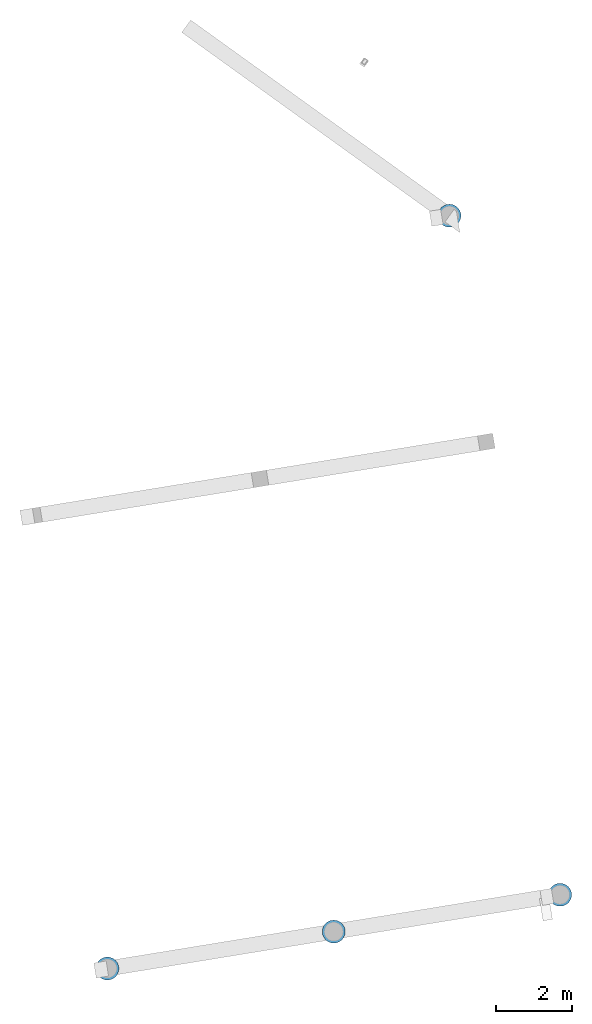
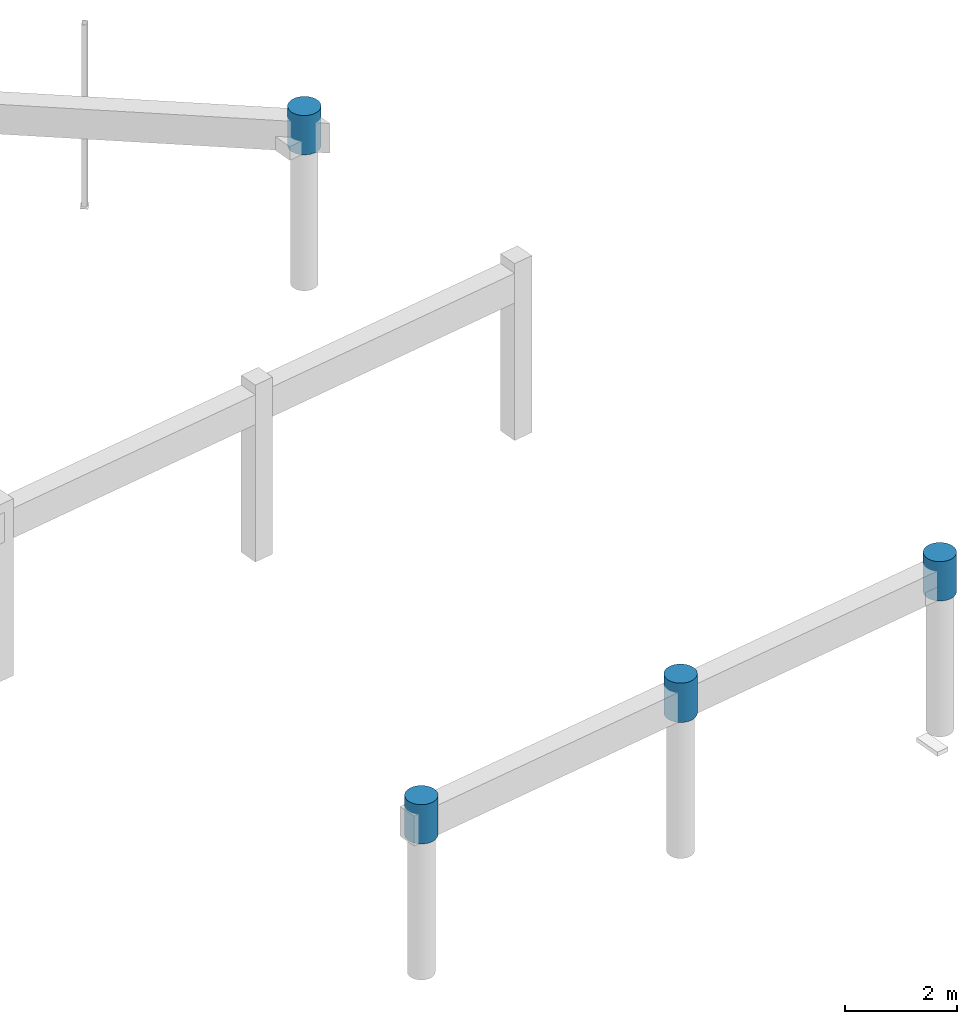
# One storey, part 4 of 4: 4 columns.
"""IFC2X3 building model written with IfcOpenShell, lengths in millimetres."""

from ifc_helpers import new_model, entity, si_unit, converted_unit, derived_unit, direction, frame, origin, origin_with_axes, place, context, subcontext, project, spatial, faceted_brep, type_object, element, save


model = new_model("IFC2X3")

# Units and contexts
model_context = context("Model", 3, precision=0.01, world=origin(), true_north=direction((6.12323399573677e-17, 1.0)))
plan_context = context("Plan", 3, precision=1e-05, world=origin_with_axes())
body_context = subcontext(model_context, "Body", "Model", "MODEL_VIEW")
ifc_project = project(units=[converted_unit("PLANEANGLEUNIT", "DEGREE", entity("IfcPositiveLengthMeasure", 0.0174532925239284), si_unit("PLANEANGLEUNIT", "RADIAN"), dimensions=[0, 0, 0, 0, 0, 0, 0]), si_unit("AREAUNIT", "SQUARE_METRE"), si_unit("LENGTHUNIT", "METRE", prefix="MILLI"), si_unit("MASSUNIT", "GRAM", prefix="KILO"), si_unit("POWERUNIT", "WATT"), si_unit("PRESSUREUNIT", "PASCAL", prefix="KILO"), si_unit("FORCEUNIT", "NEWTON", prefix="KILO"), si_unit("ELECTRICVOLTAGEUNIT", "VOLT"), si_unit("ELECTRICCURRENTUNIT", "AMPERE"), si_unit("THERMODYNAMICTEMPERATUREUNIT", "DEGREE_CELSIUS"), si_unit("TIMEUNIT", "SECOND"), si_unit("VOLUMEUNIT", "CUBIC_METRE"), derived_unit("LINEARVELOCITYUNIT", [(si_unit("LENGTHUNIT", "METRE"), 1), (si_unit("TIMEUNIT", "SECOND"), -1)]), derived_unit("VOLUMETRICFLOWRATEUNIT", [(si_unit("VOLUMEUNIT", "CUBIC_METRE"), 1), (si_unit("TIMEUNIT", "SECOND"), -1)]), derived_unit("THERMALTRANSMITTANCEUNIT", [(si_unit("POWERUNIT", "WATT"), 1), (si_unit("THERMODYNAMICTEMPERATUREUNIT", "KELVIN"), -1), (si_unit("AREAUNIT", "SQUARE_METRE"), -1)]), derived_unit("SOUNDPRESSUREUNIT", [(si_unit("PRESSUREUNIT", "PASCAL"), 1)])], contexts=[model_context, plan_context])

# Site, building, storey
site_placement = place(None, frame((5.09380697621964e-08, 5.80416781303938e-08, 0.0), z_axis=(0.0, 0.0, 1.0), x_axis=(-0.160806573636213, 0.986985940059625, 0.0)))
site = spatial("IfcSite", under=ifc_project, at=site_placement, Name="Default", CompositionType="ELEMENT")
building_placement = place(site_placement, frame((0.0, 0.0, 0.0), z_axis=(0.0, 0.0, 1.0), x_axis=(1.0, -2.77555756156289e-17, 0.0)))
building = spatial("IfcBuilding", under=site, at=building_placement, CompositionType="ELEMENT")
storey_placement = place(building_placement, frame((0.0, 0.0, 55500.0), z_axis=(0.0, 0.0, 1.0), x_axis=(1.0, -2.77555756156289e-17, 0.0)))
storey = spatial("IfcBuildingStorey", under=building, at=storey_placement, Name="H02-Nivå F-3,5 m", CompositionType="ELEMENT", Elevation=55500.0)

# Columns
column_type = type_object("IfcColumnType", Name="D600", PredefinedType="NOTDEFINED")
column_1_placement = place(storey_placement, frame((0.0, 0.0, 0.0), z_axis=(0.0, 0.0, 1.0), x_axis=(1.0, -2.77555756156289e-17, 0.0)))
element("IfcColumn", 1, at=column_1_placement, inside=storey, type_object=column_type, Name="PLASSTØPTSØYLE", ObjectType="D600", context=body_context, shape_type="Brep", body=[
    faceted_brep([(1010342.27625287, -396333.320060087, 3800.0), (1010338.58299664, -396380.250418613, 3800.0), (1010338.58299664, -396380.250418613, 2940.0), (1010342.27625287, -396333.320060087, 2940.0), (1010342.27673606, -396427.180739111, 3800.0), (1010342.27673606, -396427.180739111, 2940.0), (1010353.26651901, -396472.955441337, 3800.0), (1010353.26651901, -396472.955441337, 2940.0), (1010371.28174054, -396516.447400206, 3800.0), (1010371.28174054, -396516.447400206, 2940.0), (1010395.87880612, -396556.585699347, 3800.0), (1010395.87880612, -396556.585699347, 2940.0), (1010426.45205435, -396592.382000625, 3800.0), (1010426.45205435, -396592.382000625, 2940.0), (1010462.24867041, -396622.954880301, 3800.0), (1010462.24867041, -396622.954880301, 2940.0), (1010502.38722281, -396647.551532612, 3800.0), (1010502.38722281, -396647.551532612, 2940.0), (1010545.87936716, -396665.566306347, 3800.0), (1010545.87936716, -396665.566306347, 2940.0), (1010591.65418254, -396676.555617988, 3800.0), (1010591.65418254, -396676.555617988, 2940.0), (1010638.58454106, -396680.248874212, 3800.0), (1010638.58454106, -396680.248874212, 2940.0), (1010685.51486156, -396676.555134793, 3800.0), (1010685.51486156, -396676.555134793, 2940.0), (1010731.28956379, -396665.565351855, 3800.0), (1010731.28956379, -396665.565351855, 2940.0), (1010774.78152266, -396647.550130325, 3800.0), (1010774.78152266, -396647.550130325, 2940.0), (1010814.9198218, -396622.953064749, 3800.0), (1010814.9198218, -396622.953064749, 2940.0), (1010850.71612308, -396592.379816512, 3800.0), (1010850.71612308, -396592.379816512, 2940.0), (1010881.28900275, -396556.583200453, 3800.0), (1010881.28900275, -396556.583200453, 2940.0), (1010905.88565506, -396516.444648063, 3800.0), (1010905.88565506, -396516.444648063, 2940.0), (1010923.9004288, -396472.952503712, 3800.0), (1010923.9004288, -396472.952503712, 2940.0), (1010934.88974044, -396427.177688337, 3800.0), (1010934.88974044, -396427.177688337, 2940.0), (1010938.58299666, -396380.247329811, 3800.0), (1010938.58299666, -396380.247329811, 2940.0), (1010934.88925724, -396333.317009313, 3800.0), (1010934.88925724, -396333.317009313, 2940.0), (1010923.8994743, -396287.542307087, 3800.0), (1010923.8994743, -396287.542307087, 2940.0), (1010905.88425277, -396244.050348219, 3800.0), (1010905.88425277, -396244.050348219, 2940.0), (1010881.28718719, -396203.912049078, 3800.0), (1010881.28718719, -396203.912049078, 2940.0), (1010850.71393895, -396168.1157478, 3800.0), (1010850.71393895, -396168.1157478, 2940.0), (1010814.91732289, -396137.542868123, 3800.0), (1010814.91732289, -396137.542868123, 2940.0), (1010774.7787705, -396112.946215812, 3800.0), (1010774.7787705, -396112.946215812, 2940.0), (1010731.28662614, -396094.931442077, 3800.0), (1010731.28662614, -396094.931442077, 2940.0), (1010685.51181077, -396083.942130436, 3800.0), (1010685.51181077, -396083.942130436, 2940.0), (1010638.58145224, -396080.248874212, 3800.0), (1010638.58145224, -396080.248874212, 2940.0), (1010591.65113174, -396083.942613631, 3800.0), (1010591.65113174, -396083.942613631, 2940.0), (1010545.87642951, -396094.93239657, 3800.0), (1010545.87642951, -396094.93239657, 2940.0), (1010502.38447065, -396112.947618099, 3800.0), (1010502.38447065, -396112.947618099, 2940.0), (1010462.2461715, -396137.544683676, 3800.0), (1010462.2461715, -396137.544683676, 2940.0), (1010426.44987023, -396168.117931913, 3800.0), (1010426.44987023, -396168.117931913, 2940.0), (1010395.87699055, -396203.914547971, 3800.0), (1010395.87699055, -396203.914547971, 2940.0), (1010371.28033824, -396244.053100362, 3800.0), (1010371.28033824, -396244.053100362, 2940.0), (1010353.26556451, -396287.545244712, 3800.0), (1010353.26556451, -396287.545244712, 2940.0)], [[[0, 1, 2, 3]], [[1, 4, 5, 2]], [[4, 6, 7, 5]], [[6, 8, 9, 7]], [[8, 10, 11, 9]], [[10, 12, 13, 11]], [[12, 14, 15, 13]], [[14, 16, 17, 15]], [[16, 18, 19, 17]], [[18, 20, 21, 19]], [[20, 22, 23, 21]], [[22, 24, 25, 23]], [[24, 26, 27, 25]], [[26, 28, 29, 27]], [[28, 30, 31, 29]], [[30, 32, 33, 31]], [[32, 34, 35, 33]], [[34, 36, 37, 35]], [[36, 38, 39, 37]], [[38, 40, 41, 39]], [[40, 42, 43, 41]], [[42, 44, 45, 43]], [[44, 46, 47, 45]], [[46, 48, 49, 47]], [[48, 50, 51, 49]], [[50, 52, 53, 51]], [[52, 54, 55, 53]], [[54, 56, 57, 55]], [[56, 58, 59, 57]], [[58, 60, 61, 59]], [[60, 62, 63, 61]], [[62, 64, 65, 63]], [[64, 66, 67, 65]], [[66, 68, 69, 67]], [[68, 70, 71, 69]], [[70, 72, 73, 71]], [[72, 74, 75, 73]], [[74, 76, 77, 75]], [[76, 78, 79, 77]], [[78, 0, 3, 79]], [[3, 2, 5, 7, 9, 11, 13, 15, 17, 19, 21, 23, 25, 27, 29, 31, 33, 35, 37, 39, 41, 43, 45, 47, 49, 51, 53, 55, 57, 59, 61, 63, 65, 67, 69, 71, 73, 75, 77, 79]], [[78, 76, 74, 72, 70, 68, 66, 64, 62, 60, 58, 56, 54, 52, 50, 48, 46, 44, 42, 40, 38, 36, 34, 32, 30, 28, 26, 24, 22, 20, 18, 16, 14, 12, 10, 8, 6, 4, 1, 0]]], orient=[[False], [False], [False], [False], [False], [False], [False], [False], [False], [False], [False], [False], [False], [False], [False], [False], [False], [False], [False], [False], [False], [False], [False], [False], [False], [False], [False], [False], [False], [False], [False], [False], [False], [False], [False], [False], [False], [False], [False], [False], [False], [False]]),
])
column_2_placement = place(storey_placement, frame((0.0, 0.0, 0.0), z_axis=(0.0, 0.0, 1.0), x_axis=(1.0, -2.77555756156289e-17, 0.0)))
element("IfcColumn", 2, at=column_2_placement, inside=storey, type_object=column_type, Name="PLASSTØPTSØYLE", ObjectType="D600", context=body_context, shape_type="Brep", body=[
    faceted_brep([(992342.22322214, -384333.399603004, 3800.0), (992338.529965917, -384380.32996153, 3800.0), (992338.529965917, -384380.32996153, 2940.0), (992342.22322214, -384333.399603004, 2940.0), (992342.223705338, -384427.260282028, 3800.0), (992342.223705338, -384427.260282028, 2940.0), (992353.213488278, -384473.034984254, 3800.0), (992353.213488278, -384473.034984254, 2940.0), (992371.228709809, -384516.526943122, 3800.0), (992371.22870981, -384516.526943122, 2940.0), (992395.825775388, -384556.665242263, 3800.0), (992395.825775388, -384556.665242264, 2940.0), (992426.399023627, -384592.461543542, 3800.0), (992426.399023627, -384592.461543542, 2940.0), (992462.195639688, -384623.034423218, 3800.0), (992462.195639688, -384623.034423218, 2940.0), (992502.334192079, -384647.631075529, 3800.0), (992502.33419208, -384647.631075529, 2940.0), (992545.826336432, -384665.645849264, 3800.0), (992545.826336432, -384665.645849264, 2940.0), (992591.601151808, -384676.635160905, 3800.0), (992591.601151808, -384676.635160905, 2940.0), (992638.531510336, -384680.328417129, 3800.0), (992638.531510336, -384680.328417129, 2940.0), (992685.461830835, -384676.63467771, 3800.0), (992685.461830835, -384676.63467771, 2940.0), (992731.236533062, -384665.644894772, 3800.0), (992731.236533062, -384665.644894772, 2940.0), (992774.72849193, -384647.629673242, 3800.0), (992774.72849193, -384647.629673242, 2940.0), (992814.866791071, -384623.032607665, 3800.0), (992814.866791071, -384623.032607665, 2940.0), (992850.663092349, -384592.459359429, 3800.0), (992850.663092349, -384592.459359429, 2940.0), (992881.235972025, -384556.66274337, 3800.0), (992881.235972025, -384556.66274337, 2940.0), (992905.832624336, -384516.52419098, 3800.0), (992905.832624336, -384516.52419098, 2940.0), (992923.84739807, -384473.032046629, 3800.0), (992923.84739807, -384473.032046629, 2940.0), (992934.83670971, -384427.257231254, 3800.0), (992934.83670971, -384427.257231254, 2940.0), (992938.529965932, -384380.326872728, 3800.0), (992938.529965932, -384380.326872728, 2940.0), (992934.836226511, -384333.39655223, 3800.0), (992934.836226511, -384333.39655223, 2940.0), (992923.846443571, -384287.621850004, 3800.0), (992923.846443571, -384287.621850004, 2940.0), (992905.83122204, -384244.129891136, 3800.0), (992905.83122204, -384244.129891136, 2940.0), (992881.234156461, -384203.991591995, 3800.0), (992881.234156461, -384203.991591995, 2940.0), (992850.660908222, -384168.195290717, 3800.0), (992850.660908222, -384168.195290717, 2940.0), (992814.864292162, -384137.62241104, 3800.0), (992814.864292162, -384137.62241104, 2940.0), (992774.725739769, -384113.025758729, 3800.0), (992774.72573977, -384113.025758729, 2940.0), (992731.233595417, -384095.010984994, 3800.0), (992731.233595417, -384095.010984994, 2940.0), (992685.458780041, -384084.021673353, 3800.0), (992685.458780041, -384084.021673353, 2940.0), (992638.528421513, -384080.328417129, 3800.0), (992638.528421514, -384080.328417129, 2940.0), (992591.598101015, -384084.022156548, 3800.0), (992591.598101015, -384084.022156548, 2940.0), (992545.823398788, -384095.011939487, 3800.0), (992545.823398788, -384095.011939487, 2940.0), (992502.331439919, -384113.027161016, 3800.0), (992502.331439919, -384113.027161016, 2940.0), (992462.193140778, -384137.624226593, 3800.0), (992462.193140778, -384137.624226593, 2940.0), (992426.3968395, -384168.197474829, 3800.0), (992426.3968395, -384168.19747483, 2940.0), (992395.823959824, -384203.994090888, 3800.0), (992395.823959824, -384203.994090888, 2940.0), (992371.227307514, -384244.132643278, 3800.0), (992371.227307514, -384244.132643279, 2940.0), (992353.21253378, -384287.624787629, 3800.0), (992353.21253378, -384287.624787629, 2940.0)], [[[0, 1, 2, 3]], [[1, 4, 5, 2]], [[4, 6, 7, 5]], [[6, 8, 9, 7]], [[8, 10, 11, 9]], [[10, 12, 13, 11]], [[12, 14, 15, 13]], [[14, 16, 17, 15]], [[16, 18, 19, 17]], [[18, 20, 21, 19]], [[20, 22, 23, 21]], [[22, 24, 25, 23]], [[24, 26, 27, 25]], [[26, 28, 29, 27]], [[28, 30, 31, 29]], [[30, 32, 33, 31]], [[32, 34, 35, 33]], [[34, 36, 37, 35]], [[36, 38, 39, 37]], [[38, 40, 41, 39]], [[40, 42, 43, 41]], [[42, 44, 45, 43]], [[44, 46, 47, 45]], [[46, 48, 49, 47]], [[48, 50, 51, 49]], [[50, 52, 53, 51]], [[52, 54, 55, 53]], [[54, 56, 57, 55]], [[56, 58, 59, 57]], [[58, 60, 61, 59]], [[60, 62, 63, 61]], [[62, 64, 65, 63]], [[64, 66, 67, 65]], [[66, 68, 69, 67]], [[68, 70, 71, 69]], [[70, 72, 73, 71]], [[72, 74, 75, 73]], [[74, 76, 77, 75]], [[76, 78, 79, 77]], [[78, 0, 3, 79]], [[3, 2, 5, 7, 9, 11, 13, 15, 17, 19, 21, 23, 25, 27, 29, 31, 33, 35, 37, 39, 41, 43, 45, 47, 49, 51, 53, 55, 57, 59, 61, 63, 65, 67, 69, 71, 73, 75, 77, 79]], [[78, 76, 74, 72, 70, 68, 66, 64, 62, 60, 58, 56, 54, 52, 50, 48, 46, 44, 42, 40, 38, 36, 34, 32, 30, 28, 26, 24, 22, 20, 18, 16, 14, 12, 10, 8, 6, 4, 1, 0]]], orient=[[False], [False], [False], [False], [False], [False], [False], [False], [False], [False], [False], [False], [False], [False], [False], [False], [False], [False], [False], [False], [False], [False], [False], [False], [False], [False], [False], [False], [False], [False], [False], [False], [False], [False], [False], [False], [False], [False], [False], [False], [False], [False]]),
])
column_3_placement = place(storey_placement, frame((0.0, 0.0, 0.0), z_axis=(0.0, 0.0, 1.0), x_axis=(1.0, -2.77555756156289e-17, 0.0)))
element("IfcColumn", 3, at=column_3_placement, inside=storey, type_object=column_type, Name="PLASSTØPTSØYLE", ObjectType="D600", context=body_context, shape_type="Brep", body=[
    faceted_brep([(992342.249736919, -390333.399603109, 3800.0), (992338.556480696, -390380.329961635, 3800.0), (992338.556480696, -390380.329961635, 2940.0), (992342.249736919, -390333.399603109, 2940.0), (992342.250220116, -390427.260282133, 3800.0), (992342.250220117, -390427.260282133, 2940.0), (992353.240003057, -390473.034984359, 3800.0), (992353.240003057, -390473.034984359, 2940.0), (992371.255224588, -390516.526943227, 3800.0), (992371.255224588, -390516.526943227, 2940.0), (992395.852290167, -390556.665242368, 3800.0), (992395.852290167, -390556.665242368, 2940.0), (992426.425538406, -390592.461543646, 3800.0), (992426.425538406, -390592.461543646, 2940.0), (992462.222154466, -390623.034423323, 3800.0), (992462.222154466, -390623.034423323, 2940.0), (992502.360706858, -390647.631075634, 3800.0), (992502.360706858, -390647.631075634, 2940.0), (992545.852851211, -390665.645849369, 3800.0), (992545.852851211, -390665.645849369, 2940.0), (992591.627666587, -390676.63516101, 3800.0), (992591.627666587, -390676.63516101, 2940.0), (992638.558025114, -390680.328417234, 3800.0), (992638.558025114, -390680.328417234, 2940.0), (992685.488345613, -390676.634677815, 3800.0), (992685.488345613, -390676.634677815, 2940.0), (992731.26304784, -390665.644894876, 3800.0), (992731.26304784, -390665.644894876, 2940.0), (992774.755006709, -390647.629673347, 3800.0), (992774.755006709, -390647.629673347, 2940.0), (992814.89330585, -390623.03260777, 3800.0), (992814.89330585, -390623.03260777, 2940.0), (992850.689607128, -390592.459359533, 3800.0), (992850.689607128, -390592.459359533, 2940.0), (992881.262486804, -390556.662743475, 3800.0), (992881.262486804, -390556.662743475, 2940.0), (992905.859139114, -390516.524191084, 3800.0), (992905.859139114, -390516.524191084, 2940.0), (992923.873912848, -390473.032046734, 3800.0), (992923.873912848, -390473.032046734, 2940.0), (992934.863224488, -390427.257231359, 3800.0), (992934.863224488, -390427.257231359, 2940.0), (992938.556480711, -390380.326872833, 3800.0), (992938.556480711, -390380.326872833, 2940.0), (992934.86274129, -390333.396552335, 3800.0), (992934.86274129, -390333.396552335, 2940.0), (992923.872958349, -390287.621850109, 3800.0), (992923.872958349, -390287.621850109, 2940.0), (992905.857736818, -390244.129891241, 3800.0), (992905.857736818, -390244.129891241, 2940.0), (992881.260671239, -390203.991592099, 3800.0), (992881.26067124, -390203.991592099, 2940.0), (992850.687423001, -390168.195290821, 3800.0), (992850.687423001, -390168.195290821, 2940.0), (992814.89080694, -390137.622411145, 3800.0), (992814.890806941, -390137.622411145, 2940.0), (992774.752254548, -390113.025758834, 3800.0), (992774.752254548, -390113.025758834, 2940.0), (992731.260110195, -390095.010985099, 3800.0), (992731.260110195, -390095.010985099, 2940.0), (992685.485294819, -390084.021673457, 3800.0), (992685.485294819, -390084.021673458, 2940.0), (992638.554936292, -390080.328417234, 3800.0), (992638.554936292, -390080.328417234, 2940.0), (992591.624615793, -390084.022156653, 3800.0), (992591.624615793, -390084.022156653, 2940.0), (992545.849913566, -390095.011939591, 3800.0), (992545.849913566, -390095.011939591, 2940.0), (992502.357954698, -390113.027161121, 3800.0), (992502.357954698, -390113.027161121, 2940.0), (992462.219655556, -390137.624226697, 3800.0), (992462.219655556, -390137.624226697, 2940.0), (992426.423354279, -390168.197474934, 3800.0), (992426.423354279, -390168.197474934, 2940.0), (992395.850474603, -390203.994090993, 3800.0), (992395.850474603, -390203.994090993, 2940.0), (992371.253822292, -390244.132643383, 3800.0), (992371.253822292, -390244.132643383, 2940.0), (992353.239048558, -390287.624787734, 3800.0), (992353.239048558, -390287.624787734, 2940.0)], [[[0, 1, 2, 3]], [[1, 4, 5, 2]], [[4, 6, 7, 5]], [[6, 8, 9, 7]], [[8, 10, 11, 9]], [[10, 12, 13, 11]], [[12, 14, 15, 13]], [[14, 16, 17, 15]], [[16, 18, 19, 17]], [[18, 20, 21, 19]], [[20, 22, 23, 21]], [[22, 24, 25, 23]], [[24, 26, 27, 25]], [[26, 28, 29, 27]], [[28, 30, 31, 29]], [[30, 32, 33, 31]], [[32, 34, 35, 33]], [[34, 36, 37, 35]], [[36, 38, 39, 37]], [[38, 40, 41, 39]], [[40, 42, 43, 41]], [[42, 44, 45, 43]], [[44, 46, 47, 45]], [[46, 48, 49, 47]], [[48, 50, 51, 49]], [[50, 52, 53, 51]], [[52, 54, 55, 53]], [[54, 56, 57, 55]], [[56, 58, 59, 57]], [[58, 60, 61, 59]], [[60, 62, 63, 61]], [[62, 64, 65, 63]], [[64, 66, 67, 65]], [[66, 68, 69, 67]], [[68, 70, 71, 69]], [[70, 72, 73, 71]], [[72, 74, 75, 73]], [[74, 76, 77, 75]], [[76, 78, 79, 77]], [[78, 0, 3, 79]], [[3, 2, 5, 7, 9, 11, 13, 15, 17, 19, 21, 23, 25, 27, 29, 31, 33, 35, 37, 39, 41, 43, 45, 47, 49, 51, 53, 55, 57, 59, 61, 63, 65, 67, 69, 71, 73, 75, 77, 79]], [[78, 76, 74, 72, 70, 68, 66, 64, 62, 60, 58, 56, 54, 52, 50, 48, 46, 44, 42, 40, 38, 36, 34, 32, 30, 28, 26, 24, 22, 20, 18, 16, 14, 12, 10, 8, 6, 4, 1, 0]]], orient=[[False], [False], [False], [False], [False], [False], [False], [False], [False], [False], [False], [False], [False], [False], [False], [False], [False], [False], [False], [False], [False], [False], [False], [False], [False], [False], [False], [False], [False], [False], [False], [False], [False], [False], [False], [False], [False], [False], [False], [False], [False], [False]]),
])
column_4_placement = place(storey_placement, frame((0.0, 0.0, 0.0), z_axis=(0.0, 0.0, 1.0), x_axis=(1.0, -2.77555756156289e-17, 0.0)))
element("IfcColumn", 4, at=column_4_placement, inside=storey, type_object=column_type, Name="PLASSTØPTSØYLE", ObjectType="D600", context=body_context, shape_type="Brep", body=[
    faceted_brep([(992342.276251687, -396333.399603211, 3800.0), (992338.582995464, -396380.329961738, 3800.0), (992338.582995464, -396380.329961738, 2940.0), (992342.276251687, -396333.399603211, 2940.0), (992342.276734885, -396427.260282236, 3800.0), (992342.276734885, -396427.260282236, 2940.0), (992353.266517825, -396473.034984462, 3800.0), (992353.266517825, -396473.034984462, 2940.0), (992371.281739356, -396516.52694333, 3800.0), (992371.281739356, -396516.52694333, 2940.0), (992395.878804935, -396556.665242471, 3800.0), (992395.878804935, -396556.665242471, 2940.0), (992426.452053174, -396592.461543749, 3800.0), (992426.452053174, -396592.461543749, 2940.0), (992462.248669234, -396623.034423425, 3800.0), (992462.248669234, -396623.034423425, 2940.0), (992502.387221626, -396647.631075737, 3800.0), (992502.387221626, -396647.631075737, 2940.0), (992545.879365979, -396665.645849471, 3800.0), (992545.879365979, -396665.645849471, 2940.0), (992591.654181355, -396676.635161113, 3800.0), (992591.654181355, -396676.635161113, 2940.0), (992638.584539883, -396680.328417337, 3800.0), (992638.584539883, -396680.328417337, 2940.0), (992685.514860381, -396676.634677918, 3800.0), (992685.514860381, -396676.634677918, 2940.0), (992731.289562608, -396665.644894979, 3800.0), (992731.289562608, -396665.644894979, 2940.0), (992774.781521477, -396647.62967345, 3800.0), (992774.781521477, -396647.62967345, 2940.0), (992814.919820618, -396623.032607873, 3800.0), (992814.919820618, -396623.032607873, 2940.0), (992850.716121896, -396592.459359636, 3800.0), (992850.716121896, -396592.459359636, 2940.0), (992881.289001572, -396556.662743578, 3800.0), (992881.289001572, -396556.662743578, 2940.0), (992905.885653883, -396516.524191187, 3800.0), (992905.885653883, -396516.524191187, 2940.0), (992923.900427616, -396473.032046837, 3800.0), (992923.900427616, -396473.032046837, 2940.0), (992934.889739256, -396427.257231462, 3800.0), (992934.889739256, -396427.257231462, 2940.0), (992938.582995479, -396380.326872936, 3800.0), (992938.582995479, -396380.326872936, 2940.0), (992934.889256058, -396333.396552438, 3800.0), (992934.889256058, -396333.396552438, 2940.0), (992923.899473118, -396287.621850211, 3800.0), (992923.899473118, -396287.621850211, 2940.0), (992905.884251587, -396244.129891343, 3800.0), (992905.884251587, -396244.129891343, 2940.0), (992881.287186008, -396203.991592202, 3800.0), (992881.287186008, -396203.991592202, 2940.0), (992850.713937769, -396168.195290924, 3800.0), (992850.713937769, -396168.195290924, 2940.0), (992814.917321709, -396137.622411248, 3800.0), (992814.917321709, -396137.622411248, 2940.0), (992774.778769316, -396113.025758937, 3800.0), (992774.778769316, -396113.025758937, 2940.0), (992731.286624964, -396095.010985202, 3800.0), (992731.286624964, -396095.010985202, 2940.0), (992685.511809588, -396084.02167356, 3800.0), (992685.511809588, -396084.02167356, 2940.0), (992638.58145106, -396080.328417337, 3800.0), (992638.58145106, -396080.328417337, 2940.0), (992591.651130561, -396084.022156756, 3800.0), (992591.651130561, -396084.022156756, 2940.0), (992545.876428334, -396095.011939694, 3800.0), (992545.876428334, -396095.011939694, 2940.0), (992502.384469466, -396113.027161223, 3800.0), (992502.384469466, -396113.027161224, 2940.0), (992462.246170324, -396137.6242268, 3800.0), (992462.246170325, -396137.6242268, 2940.0), (992426.449869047, -396168.197475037, 3800.0), (992426.449869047, -396168.197475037, 2940.0), (992395.876989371, -396203.994091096, 3800.0), (992395.876989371, -396203.994091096, 2940.0), (992371.280337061, -396244.132643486, 3800.0), (992371.280337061, -396244.132643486, 2940.0), (992353.265563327, -396287.624787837, 3800.0), (992353.265563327, -396287.624787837, 2940.0)], [[[0, 1, 2, 3]], [[1, 4, 5, 2]], [[4, 6, 7, 5]], [[6, 8, 9, 7]], [[8, 10, 11, 9]], [[10, 12, 13, 11]], [[12, 14, 15, 13]], [[14, 16, 17, 15]], [[16, 18, 19, 17]], [[18, 20, 21, 19]], [[20, 22, 23, 21]], [[22, 24, 25, 23]], [[24, 26, 27, 25]], [[26, 28, 29, 27]], [[28, 30, 31, 29]], [[30, 32, 33, 31]], [[32, 34, 35, 33]], [[34, 36, 37, 35]], [[36, 38, 39, 37]], [[38, 40, 41, 39]], [[40, 42, 43, 41]], [[42, 44, 45, 43]], [[44, 46, 47, 45]], [[46, 48, 49, 47]], [[48, 50, 51, 49]], [[50, 52, 53, 51]], [[52, 54, 55, 53]], [[54, 56, 57, 55]], [[56, 58, 59, 57]], [[58, 60, 61, 59]], [[60, 62, 63, 61]], [[62, 64, 65, 63]], [[64, 66, 67, 65]], [[66, 68, 69, 67]], [[68, 70, 71, 69]], [[70, 72, 73, 71]], [[72, 74, 75, 73]], [[74, 76, 77, 75]], [[76, 78, 79, 77]], [[78, 0, 3, 79]], [[3, 2, 5, 7, 9, 11, 13, 15, 17, 19, 21, 23, 25, 27, 29, 31, 33, 35, 37, 39, 41, 43, 45, 47, 49, 51, 53, 55, 57, 59, 61, 63, 65, 67, 69, 71, 73, 75, 77, 79]], [[78, 76, 74, 72, 70, 68, 66, 64, 62, 60, 58, 56, 54, 52, 50, 48, 46, 44, 42, 40, 38, 36, 34, 32, 30, 28, 26, 24, 22, 20, 18, 16, 14, 12, 10, 8, 6, 4, 1, 0]]], orient=[[False], [False], [False], [False], [False], [False], [False], [False], [False], [False], [False], [False], [False], [False], [False], [False], [False], [False], [False], [False], [False], [False], [False], [False], [False], [False], [False], [False], [False], [False], [False], [False], [False], [False], [False], [False], [False], [False], [False], [False], [False], [False]]),
])

save(model, "model.ifc")
